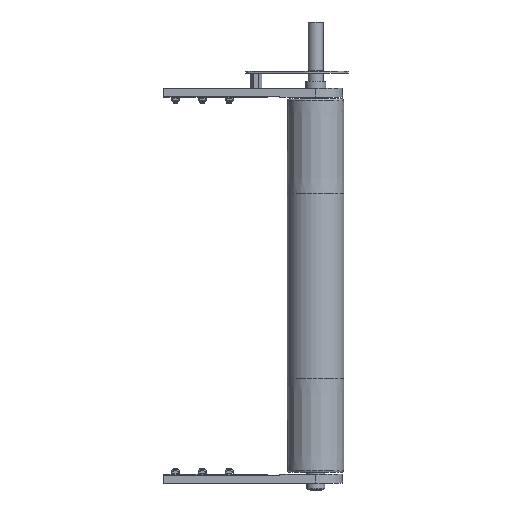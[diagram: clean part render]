
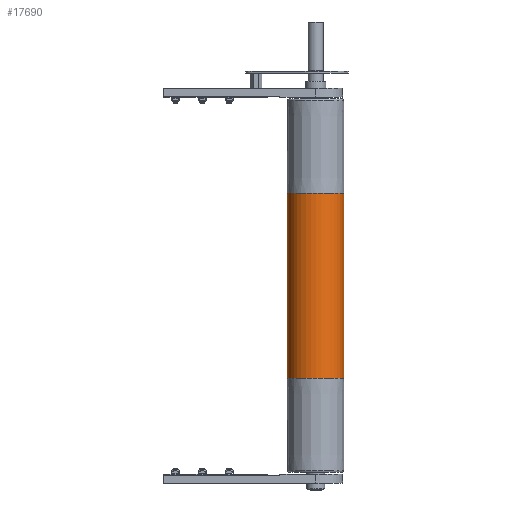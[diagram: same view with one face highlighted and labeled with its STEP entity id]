
A CAD part, front view. The second image highlights one B-rep face of the part: STEP entity #17690.
In plain terms, the highlighted cylindrical face has radius 47.5 mm (diameter 95 mm), a partial arc.
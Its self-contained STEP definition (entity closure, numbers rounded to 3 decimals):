
#3954 = EDGE_CURVE ( 'NONE', #17134, #17139, #14981, .T. ) ;
#3955 = EDGE_CURVE ( 'NONE', #17135, #17140, #14984, .T. ) ;
#4120 = EDGE_CURVE ( 'NONE', #17135, #17134, #15235, .T. ) ;
#4121 = EDGE_CURVE ( 'NONE', #17140, #17139, #15236, .T. ) ;
#5491 = CARTESIAN_POINT ( 'NONE',  ( 155., 0., -47.5 ) ) ;
#5492 = CARTESIAN_POINT ( 'NONE',  ( 155., 0., 47.5 ) ) ;
#5496 = CARTESIAN_POINT ( 'NONE',  ( -155., 0., -47.5 ) ) ;
#5497 = CARTESIAN_POINT ( 'NONE',  ( -155., 0., 47.5 ) ) ;
#6668 = AXIS2_PLACEMENT_3D ( 'NONE', #13522, #13521, #13517 ) ;
#7450 = EDGE_LOOP ( 'NONE', ( #11814, #11815, #11816, #11817 ) ) ;
#11324 = DIRECTION ( 'NONE',  ( -1., 0., 0. ) ) ;
#11326 = CARTESIAN_POINT ( 'NONE',  ( 310., 0., 47.5 ) ) ;
#11327 = DIRECTION ( 'NONE',  ( -1., 0., 0. ) ) ;
#11332 = CARTESIAN_POINT ( 'NONE',  ( 310., 0., -47.5 ) ) ;
#11814 = ORIENTED_EDGE ( 'NONE', *, *, #3954, .F. ) ;
#11815 = ORIENTED_EDGE ( 'NONE', *, *, #4120, .F. ) ;
#11816 = ORIENTED_EDGE ( 'NONE', *, *, #3955, .T. ) ;
#11817 = ORIENTED_EDGE ( 'NONE', *, *, #4121, .T. ) ;
#13517 = DIRECTION ( 'NONE',  ( 0., 0., 1. ) ) ;
#13521 = DIRECTION ( 'NONE',  ( -1., 0., 0. ) ) ;
#13522 = CARTESIAN_POINT ( 'NONE',  ( 310., 0., 0. ) ) ;
#14550 = AXIS2_PLACEMENT_3D ( 'NONE', #18233, #18234, #18235 ) ;
#14551 = AXIS2_PLACEMENT_3D ( 'NONE', #18236, #18237, #18238 ) ;
#14981 = LINE ( 'NONE', #11332, #14985 ) ;
#14984 = LINE ( 'NONE', #11326, #14987 ) ;
#14985 = VECTOR ( 'NONE', #11327, 1000. ) ;
#14987 = VECTOR ( 'NONE', #11324, 1000. ) ;
#15235 = CIRCLE ( 'NONE', #14550, 47.5 ) ;
#15236 = CIRCLE ( 'NONE', #14551, 47.5 ) ;
#16532 = FACE_OUTER_BOUND ( 'NONE', #7450, .T. ) ;
#16537 = CYLINDRICAL_SURFACE ( 'NONE', #6668, 47.5 ) ;
#17134 = VERTEX_POINT ( 'NONE', #5491 ) ;
#17135 = VERTEX_POINT ( 'NONE', #5492 ) ;
#17139 = VERTEX_POINT ( 'NONE', #5496 ) ;
#17140 = VERTEX_POINT ( 'NONE', #5497 ) ;
#17690 = ADVANCED_FACE ( 'NONE', ( #16532 ), #16537, .T. ) ;
#18233 = CARTESIAN_POINT ( 'NONE',  ( 155., 0., 0. ) ) ;
#18234 = DIRECTION ( 'NONE',  ( 1., 0., 0. ) ) ;
#18235 = DIRECTION ( 'NONE',  ( 0., 0., -1. ) ) ;
#18236 = CARTESIAN_POINT ( 'NONE',  ( -155., 0., 0. ) ) ;
#18237 = DIRECTION ( 'NONE',  ( 1., 0., 0. ) ) ;
#18238 = DIRECTION ( 'NONE',  ( 0., 0., -1. ) ) ;
